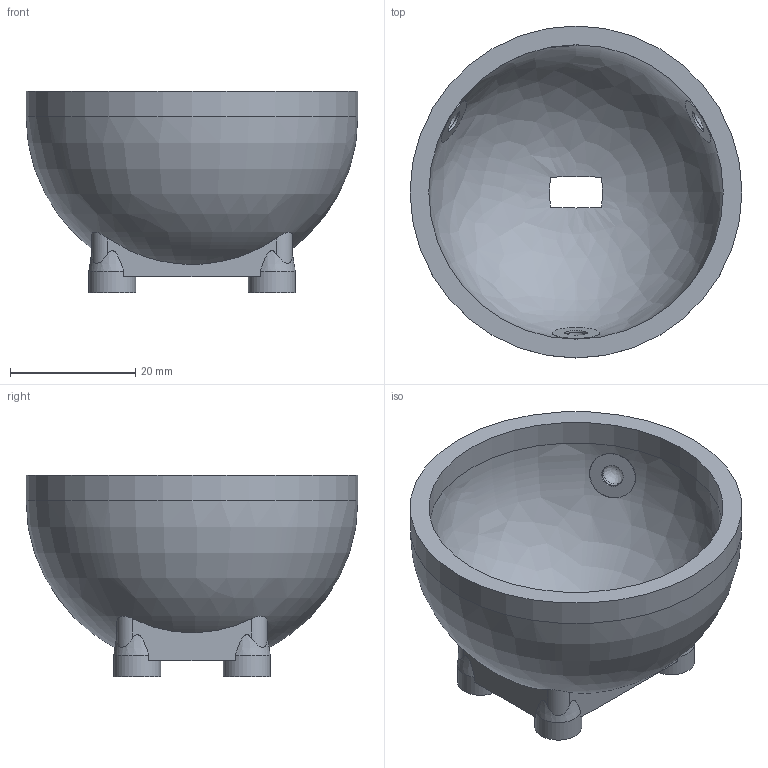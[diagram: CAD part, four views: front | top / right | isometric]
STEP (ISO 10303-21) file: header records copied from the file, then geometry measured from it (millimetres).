
FILE_DESCRIPTION(('Open CASCADE Model'),'2;1');
FILE_NAME('Open CASCADE Shape Model','2026-05-31T19:43:20',('Author'),( 'Open CASCADE'),'Open CASCADE STEP processor 7.6','Open CASCADE 7.6' ,'Unknown');
FILE_SCHEMA(('AP242_MANAGED_MODEL_BASED_3D_ENGINEERING_MIM_LF. {1 0 10303 442 1 1 4 }'));
Length unit declared in the file: millimetre
Products named in the file (1): Open CASCADE STEP translator 7.6 10
Bounding box: 53 x 53 x 32.1 mm (x, y, z)
Volume: 15042.9 mm3; surface area: 10603.9 mm2
Topology: 1 solids, 1 shells, 65 faces, 153 edges, 101 vertices
Faces by surface type: cylinder 27, plane 22, revolution 8, bspline 4, cone 4
Full cylindrical faces by diameter (mm): 3.5 x4, 3.57 x3, 3.572 x3, 7.5 x4, 7.57 x3, 47 x1, 53 x1
Entity records: 8516 total; most frequent: CARTESIAN_POINT 5509, DIRECTION 537, ORIENTED_EDGE 300, PCURVE 300, DEFINITIONAL_REPRESENTATION 300, LINE 251, VECTOR 251, EDGE_CURVE 150
